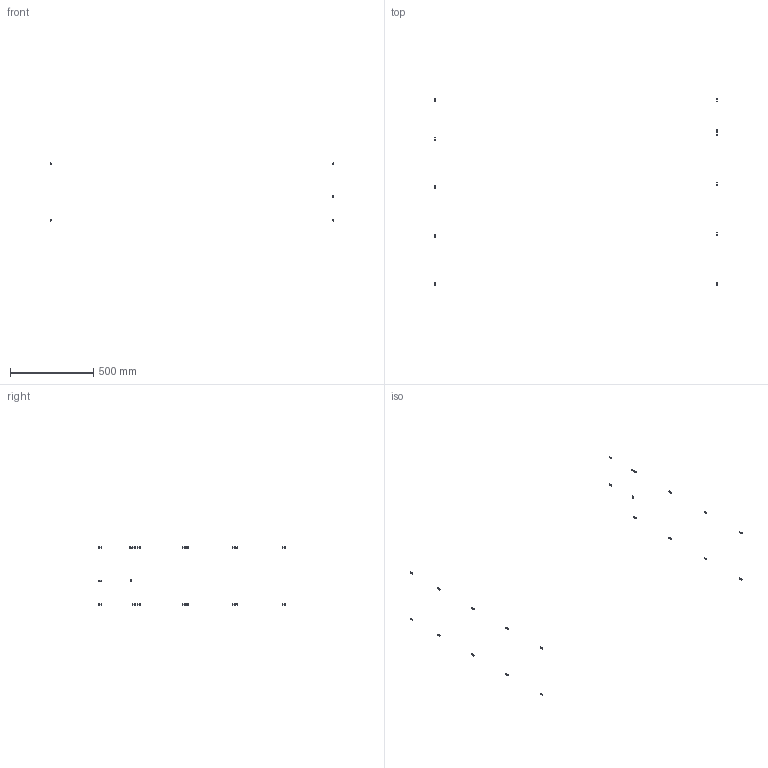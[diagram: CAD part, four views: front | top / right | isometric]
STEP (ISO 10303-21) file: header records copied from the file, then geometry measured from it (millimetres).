
FILE_DESCRIPTION(/* description */ (''),/* implementation_level */ '2;1');
FILE_NAME(/* name */ '14.frame-panels#14.3#HNTPZ5-5',/* time_stamp */ '2014-12-01T20:20:13+01:00',/* author */ (''),/* organization */ (''),/* preprocessor_version */ 'ST-DEVELOPER v14',/* originating_system */ '',/* authorisation */ '');
FILE_SCHEMA (('AUTOMOTIVE_DESIGN'));
Length unit declared in the file: millimetre
Products named in the file (2): Document; nut tslot, post, M5
Assembly tree (11 placements, depth 2):
  Document
    nut tslot, post, M5  x11
Bounding box: 1697.2 x 1122 x 348.3 mm (x, y, z)
Volume: 6930.3 mm3; surface area: 9229.3 mm2
Topology: 22 solids, 22 shells, 286 faces, 792 edges, 528 vertices
Faces by surface type: plane 242, bspline 44
Entity records: 11553 total; most frequent: CARTESIAN_POINT 5486, B_SPLINE_CURVE_WITH_KNOTS 1200, ORIENTED_EDGE 864, PCURVE 864, DEFINITIONAL_REPRESENTATION 864, SURFACE_CURVE 432, EDGE_CURVE 432, VERTEX_POINT 288
